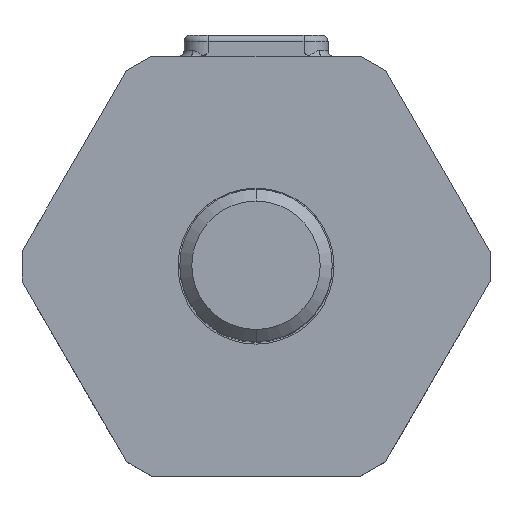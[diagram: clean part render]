
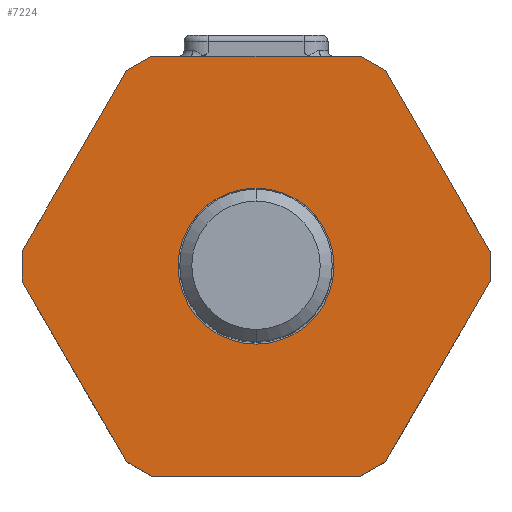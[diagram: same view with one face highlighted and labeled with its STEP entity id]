
A CAD part, top view. The second image highlights one B-rep face of the part: STEP entity #7224.
In plain terms, the highlighted planar face has unit normal (0, 0, 1).
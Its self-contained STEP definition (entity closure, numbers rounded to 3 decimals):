
#1=DIRECTION('',(-0.866,-0.499,0.));
#2=VECTOR('',#1,4.833);
#3=CARTESIAN_POINT('',(-17.385,35.,61.7));
#4=LINE('',#3,#2);
#18=CARTESIAN_POINT('',(0.,0.,61.7));
#19=DIRECTION('',(0.,0.,-1.));
#20=DIRECTION('',(0.,1.,0.));
#21=AXIS2_PLACEMENT_3D('',#18,#19,#20);
#23=CARTESIAN_POINT('',(0.,0.,61.7));
#24=DIRECTION('',(0.,0.,-1.));
#25=DIRECTION('',(0.,-1.,0.));
#26=AXIS2_PLACEMENT_3D('',#23,#24,#25);
#41=DIRECTION('',(-1.,0.,0.));
#42=VECTOR('',#41,34.769);
#43=CARTESIAN_POINT('',(17.385,35.,61.7));
#44=LINE('',#43,#42);
#642=DIRECTION('',(-0.501,-0.865,0.));
#643=VECTOR('',#642,34.772);
#644=CARTESIAN_POINT('',(-21.571,32.587,61.7));
#645=LINE('',#644,#643);
#650=DIRECTION('',(0.,-1.,0.));
#651=VECTOR('',#650,4.997);
#652=CARTESIAN_POINT('',(-39.,2.499,61.7));
#653=LINE('',#652,#651);
#672=DIRECTION('',(0.501,-0.865,0.));
#673=VECTOR('',#672,34.77);
#674=CARTESIAN_POINT('',(-39.,-2.499,61.7));
#675=LINE('',#674,#673);
#712=DIRECTION('',(0.866,-0.499,0.));
#713=VECTOR('',#712,4.833);
#714=CARTESIAN_POINT('',(-21.573,-32.586,61.7));
#715=LINE('',#714,#713);
#857=DIRECTION('',(1.,0.,0.));
#858=VECTOR('',#857,34.772);
#859=CARTESIAN_POINT('',(-17.386,-35.,61.7));
#860=LINE('',#859,#858);
#3417=DIRECTION('',(0.866,0.499,0.));
#3418=VECTOR('',#3417,4.833);
#3419=CARTESIAN_POINT('',(17.386,-35.,61.7));
#3420=LINE('',#3419,#3418);
#3430=DIRECTION('',(0.501,0.865,0.));
#3431=VECTOR('',#3430,34.769);
#3432=CARTESIAN_POINT('',(21.573,-32.586,61.7));
#3433=LINE('',#3432,#3431);
#3438=DIRECTION('',(0.,1.,0.));
#3439=VECTOR('',#3438,5.);
#3440=CARTESIAN_POINT('',(39.,-2.5,61.7));
#3441=LINE('',#3440,#3439);
#3446=DIRECTION('',(-0.501,0.865,0.));
#3447=VECTOR('',#3446,34.768);
#3448=CARTESIAN_POINT('',(39.,2.5,61.7));
#3449=LINE('',#3448,#3447);
#3454=DIRECTION('',(-0.866,0.499,0.));
#3455=VECTOR('',#3454,4.835);
#3456=CARTESIAN_POINT('',(21.574,32.585,61.7));
#3457=LINE('',#3456,#3455);
#6581=CARTESIAN_POINT('',(-17.385,35.,61.7));
#6582=CARTESIAN_POINT('',(-21.571,32.587,61.7));
#6583=VERTEX_POINT('',#6581);
#6584=VERTEX_POINT('',#6582);
#6585=CARTESIAN_POINT('',(-39.,2.499,61.7));
#6586=VERTEX_POINT('',#6585);
#6587=CARTESIAN_POINT('',(-39.,-2.499,61.7));
#6588=VERTEX_POINT('',#6587);
#6589=CARTESIAN_POINT('',(-21.573,-32.586,61.7));
#6590=VERTEX_POINT('',#6589);
#6591=CARTESIAN_POINT('',(-17.386,-35.,61.7));
#6592=VERTEX_POINT('',#6591);
#6593=CARTESIAN_POINT('',(17.386,-35.,61.7));
#6594=VERTEX_POINT('',#6593);
#6595=CARTESIAN_POINT('',(21.573,-32.586,61.7));
#6596=VERTEX_POINT('',#6595);
#6597=CARTESIAN_POINT('',(39.,-2.5,61.7));
#6598=VERTEX_POINT('',#6597);
#6599=CARTESIAN_POINT('',(39.,2.5,61.7));
#6600=VERTEX_POINT('',#6599);
#6601=CARTESIAN_POINT('',(21.574,32.585,61.7));
#6602=VERTEX_POINT('',#6601);
#6603=CARTESIAN_POINT('',(17.385,35.,61.7));
#6604=VERTEX_POINT('',#6603);
#7164=CARTESIAN_POINT('',(0.,13.,61.7));
#7165=CARTESIAN_POINT('',(0.,-13.,61.7));
#7166=VERTEX_POINT('',#7164);
#7167=VERTEX_POINT('',#7165);
#7188=CARTESIAN_POINT('',(50.,-50.,61.7));
#7189=DIRECTION('',(0.,0.,-1.));
#7190=DIRECTION('',(-1.,0.,0.));
#7191=AXIS2_PLACEMENT_3D('',#7188,#7189,#7190);
#7192=PLANE('',#7191);
#7193=ORIENTED_EDGE('',*,*,#7177,.F.);
#7195=ORIENTED_EDGE('',*,*,#7194,.F.);
#7197=ORIENTED_EDGE('',*,*,#7196,.F.);
#7199=ORIENTED_EDGE('',*,*,#7198,.F.);
#7201=ORIENTED_EDGE('',*,*,#7200,.F.);
#7203=ORIENTED_EDGE('',*,*,#7202,.F.);
#7205=ORIENTED_EDGE('',*,*,#7204,.F.);
#7207=ORIENTED_EDGE('',*,*,#7206,.F.);
#7209=ORIENTED_EDGE('',*,*,#7208,.F.);
#7211=ORIENTED_EDGE('',*,*,#7210,.F.);
#7213=ORIENTED_EDGE('',*,*,#7212,.F.);
#7215=ORIENTED_EDGE('',*,*,#7214,.F.);
#7216=EDGE_LOOP('',(#7193,#7195,#7197,#7199,#7201,#7203,#7205,#7207,#7209,#7211,
#7213,#7215));
#7217=FACE_OUTER_BOUND('',#7216,.F.);
#7219=ORIENTED_EDGE('',*,*,#7218,.F.);
#7221=ORIENTED_EDGE('',*,*,#7220,.F.);
#7222=EDGE_LOOP('',(#7219,#7221));
#7223=FACE_BOUND('',#7222,.F.);
#7224=ADVANCED_FACE('',(#7217,#7223),#7192,.F.);
#22=CIRCLE('',#21,13.);
#27=CIRCLE('',#26,13.);
#7177=EDGE_CURVE('',#6583,#6584,#4,.T.);
#7194=EDGE_CURVE('',#6604,#6583,#44,.T.);
#7196=EDGE_CURVE('',#6602,#6604,#3457,.T.);
#7198=EDGE_CURVE('',#6600,#6602,#3449,.T.);
#7200=EDGE_CURVE('',#6598,#6600,#3441,.T.);
#7202=EDGE_CURVE('',#6596,#6598,#3433,.T.);
#7204=EDGE_CURVE('',#6594,#6596,#3420,.T.);
#7206=EDGE_CURVE('',#6592,#6594,#860,.T.);
#7208=EDGE_CURVE('',#6590,#6592,#715,.T.);
#7210=EDGE_CURVE('',#6588,#6590,#675,.T.);
#7212=EDGE_CURVE('',#6586,#6588,#653,.T.);
#7214=EDGE_CURVE('',#6584,#6586,#645,.T.);
#7218=EDGE_CURVE('',#7166,#7167,#22,.T.);
#7220=EDGE_CURVE('',#7167,#7166,#27,.T.);
